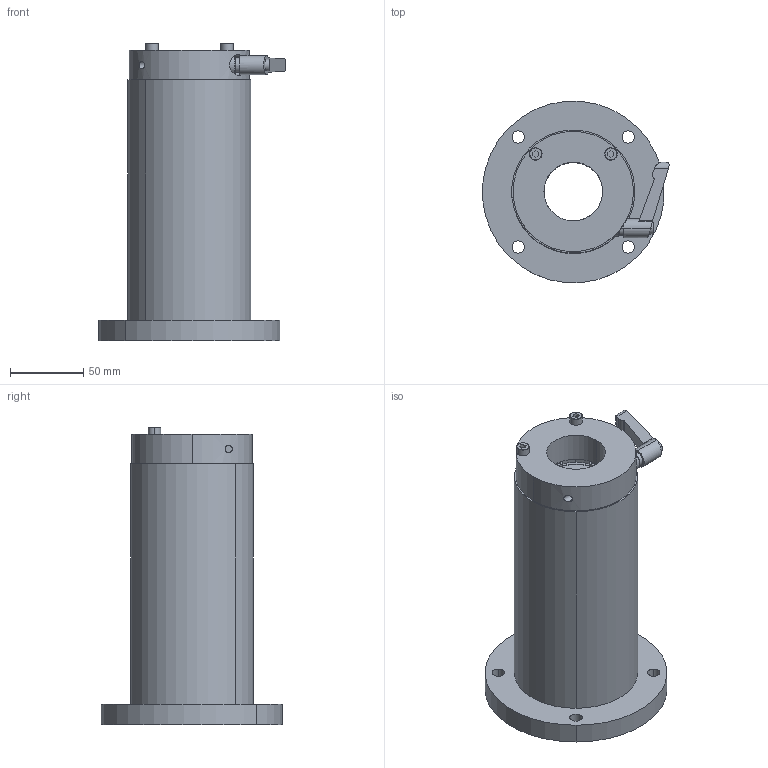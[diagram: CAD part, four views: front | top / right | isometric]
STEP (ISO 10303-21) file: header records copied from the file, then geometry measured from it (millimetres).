
FILE_DESCRIPTION (( 'STEP AP214' ), '1' );
FILE_NAME ('LFW40-C.STEP', '2023-06-27T01:56:24', ( '' ), ( '' ), 'SwSTEP 2.0', 'SolidWorks 2019', '' );
FILE_SCHEMA (( 'AUTOMOTIVE_DESIGN' ));
Length unit declared in the file: millimetre
Products named in the file (3): “ÁSCK4020CO-S5.5; LFW40; LFW40-C
Assembly tree (2 placements, depth 2):
  LFW40-C
    LFW40
    “ÁSCK4020CO-S5.5
Bounding box: 127.16 x 123.53 x 203 mm (x, y, z)
Volume: 907105.2 mm3; surface area: 128698.5 mm2
Topology: 4 solids, 9 shells, 189 faces, 461 edges, 292 vertices
Faces by surface type: cylinder 76, plane 55, bspline 39, cone 11, torus 8
Entity records: 8281 total; most frequent: CARTESIAN_POINT 1835, DIRECTION 978, ORIENTED_EDGE 922, EDGE_CURVE 461, AXIS2_PLACEMENT_3D 405, VERTEX_POINT 292, CIRCLE 250, EDGE_LOOP 231
